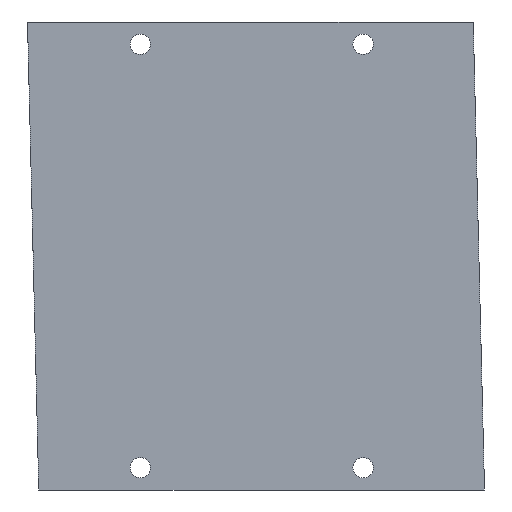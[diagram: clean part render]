
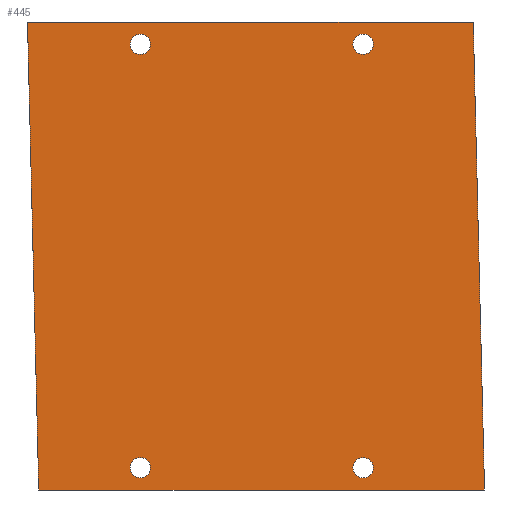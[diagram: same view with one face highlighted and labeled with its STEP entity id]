
A CAD part, front view. The second image highlights one B-rep face of the part: STEP entity #445.
In plain terms, the highlighted planar face has unit normal (0, -1, 0).
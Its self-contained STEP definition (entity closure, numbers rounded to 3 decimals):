
#96 = VERTEX_POINT ( 'NONE', #1097 ) ;
#106 = VERTEX_POINT ( 'NONE', #1089 ) ;
#150 = EDGE_CURVE ( 'NONE', #106, #96, #1313, .T. ) ;
#268 = EDGE_CURVE ( 'NONE', #346, #352, #1745, .T. ) ;
#270 = VERTEX_POINT ( 'NONE', #1726 ) ;
#275 = EDGE_CURVE ( 'NONE', #417, #418, #1773, .T. ) ;
#284 = VERTEX_POINT ( 'NONE', #1764 ) ;
#296 = EDGE_LOOP ( 'NONE', ( #432, #446 ) ) ;
#297 = ORIENTED_EDGE ( 'NONE', *, *, #449, .T. ) ;
#298 = ORIENTED_EDGE ( 'NONE', *, *, #345, .T. ) ;
#299 = ORIENTED_EDGE ( 'NONE', *, *, #305, .T. ) ;
#300 = ORIENTED_EDGE ( 'NONE', *, *, #334, .T. ) ;
#305 = EDGE_CURVE ( 'NONE', #284, #270, #1815, .T. ) ;
#320 = EDGE_CURVE ( 'NONE', #332, #374, #1859, .T. ) ;
#321 = EDGE_LOOP ( 'NONE', ( #299, #298 ) ) ;
#328 = ORIENTED_EDGE ( 'NONE', *, *, #268, .T. ) ;
#330 = EDGE_CURVE ( 'NONE', #409, #332, #1858, .T. ) ;
#332 = VERTEX_POINT ( 'NONE', #1853 ) ;
#334 = EDGE_CURVE ( 'NONE', #352, #346, #1901, .T. ) ;
#345 = EDGE_CURVE ( 'NONE', #270, #284, #1886, .T. ) ;
#346 = VERTEX_POINT ( 'NONE', #1896 ) ;
#352 = VERTEX_POINT ( 'NONE', #1931 ) ;
#374 = VERTEX_POINT ( 'NONE', #1961 ) ;
#382 = VERTEX_POINT ( 'NONE', #1997 ) ;
#399 = EDGE_CURVE ( 'NONE', #409, #382, #2031, .T. ) ;
#404 = EDGE_CURVE ( 'NONE', #382, #374, #2027, .T. ) ;
#409 = VERTEX_POINT ( 'NONE', #2020 ) ;
#417 = VERTEX_POINT ( 'NONE', #2016 ) ;
#418 = VERTEX_POINT ( 'NONE', #2058 ) ;
#429 = ORIENTED_EDGE ( 'NONE', *, *, #320, .F. ) ;
#431 = EDGE_CURVE ( 'NONE', #96, #106, #2034, .T. ) ;
#432 = ORIENTED_EDGE ( 'NONE', *, *, #431, .T. ) ;
#433 = ORIENTED_EDGE ( 'NONE', *, *, #399, .T. ) ;
#434 = ORIENTED_EDGE ( 'NONE', *, *, #330, .F. ) ;
#436 = ORIENTED_EDGE ( 'NONE', *, *, #404, .T. ) ;
#437 = EDGE_LOOP ( 'NONE', ( #297, #441 ) ) ;
#441 = ORIENTED_EDGE ( 'NONE', *, *, #275, .T. ) ;
#442 = EDGE_LOOP ( 'NONE', ( #436, #429, #434, #433 ) ) ;
#445 = ADVANCED_FACE ( 'NONE', ( #2089, #2092, #2084, #2081, #2037 ), #2085, .F. ) ;
#446 = ORIENTED_EDGE ( 'NONE', *, *, #150, .T. ) ;
#449 = EDGE_CURVE ( 'NONE', #418, #417, #2129, .T. ) ;
#450 = EDGE_LOOP ( 'NONE', ( #300, #328 ) ) ;
#1089 = CARTESIAN_POINT ( 'NONE',  ( 666.479, 0., -131.039 ) ) ;
#1097 = CARTESIAN_POINT ( 'NONE',  ( 666.479, 0., -125.539 ) ) ;
#1313 = CIRCLE ( 'NONE', #1383, 2.75 ) ;
#1316 = CARTESIAN_POINT ( 'NONE',  ( 666.479, 0., -128.289 ) ) ;
#1376 = DIRECTION ( 'NONE',  ( 0., 0., 1. ) ) ;
#1377 = DIRECTION ( 'NONE',  ( 0., 1., 0. ) ) ;
#1383 = AXIS2_PLACEMENT_3D ( 'NONE', #1316, #1377, #1376 ) ;
#1721 = DIRECTION ( 'NONE',  ( 0., 0., 1. ) ) ;
#1722 = DIRECTION ( 'NONE',  ( 0., 1., 0. ) ) ;
#1723 = CARTESIAN_POINT ( 'NONE',  ( 726.479, 0., -14.289 ) ) ;
#1726 = CARTESIAN_POINT ( 'NONE',  ( 726.479, 0., -131.039 ) ) ;
#1737 = AXIS2_PLACEMENT_3D ( 'NONE', #1723, #1722, #1721 ) ;
#1745 = CIRCLE ( 'NONE', #1737, 2.75 ) ;
#1761 = DIRECTION ( 'NONE',  ( 0., 0., 1. ) ) ;
#1762 = DIRECTION ( 'NONE',  ( 0., 1., 0. ) ) ;
#1763 = CARTESIAN_POINT ( 'NONE',  ( 666.479, 0., -14.289 ) ) ;
#1764 = CARTESIAN_POINT ( 'NONE',  ( 726.479, 0., -125.539 ) ) ;
#1766 = AXIS2_PLACEMENT_3D ( 'NONE', #1763, #1762, #1761 ) ;
#1773 = CIRCLE ( 'NONE', #1766, 2.75 ) ;
#1813 = DIRECTION ( 'NONE',  ( 0., 0., 1. ) ) ;
#1814 = DIRECTION ( 'NONE',  ( 0., 1., 0. ) ) ;
#1815 = CIRCLE ( 'NONE', #1816, 2.75 ) ;
#1816 = AXIS2_PLACEMENT_3D ( 'NONE', #1819, #1814, #1813 ) ;
#1819 = CARTESIAN_POINT ( 'NONE',  ( 726.479, 0., -128.289 ) ) ;
#1845 = DIRECTION ( 'NONE',  ( -0.024, 0., 1. ) ) ;
#1846 = VECTOR ( 'NONE', #1845, 1000. ) ;
#1847 = CARTESIAN_POINT ( 'NONE',  ( 637.567, 0., -68.761 ) ) ;
#1853 = CARTESIAN_POINT ( 'NONE',  ( 636.109, 0., -8.289 ) ) ;
#1855 = DIRECTION ( 'NONE',  ( 1., 0., 0. ) ) ;
#1856 = VECTOR ( 'NONE', #1855, 1000. ) ;
#1857 = CARTESIAN_POINT ( 'NONE',  ( 532.725, 0., -8.289 ) ) ;
#1858 = LINE ( 'NONE', #1847, #1846 ) ;
#1859 = LINE ( 'NONE', #1857, #1856 ) ;
#1880 = DIRECTION ( 'NONE',  ( 0., 0., 1. ) ) ;
#1881 = DIRECTION ( 'NONE',  ( 0., 1., 0. ) ) ;
#1882 = CARTESIAN_POINT ( 'NONE',  ( 726.479, 0., -128.289 ) ) ;
#1883 = AXIS2_PLACEMENT_3D ( 'NONE', #1882, #1881, #1880 ) ;
#1886 = CIRCLE ( 'NONE', #1883, 2.75 ) ;
#1892 = DIRECTION ( 'NONE',  ( 0., 0., 1. ) ) ;
#1893 = DIRECTION ( 'NONE',  ( 0., 1., 0. ) ) ;
#1894 = CARTESIAN_POINT ( 'NONE',  ( 726.479, 0., -14.289 ) ) ;
#1895 = AXIS2_PLACEMENT_3D ( 'NONE', #1894, #1893, #1892 ) ;
#1896 = CARTESIAN_POINT ( 'NONE',  ( 726.479, 0., -17.039 ) ) ;
#1901 = CIRCLE ( 'NONE', #1895, 2.75 ) ;
#1931 = CARTESIAN_POINT ( 'NONE',  ( 726.479, 0., -11.539 ) ) ;
#1961 = CARTESIAN_POINT ( 'NONE',  ( 756.109, 0., -8.289 ) ) ;
#1969 = VECTOR ( 'NONE', #2015, 1000. ) ;
#1997 = CARTESIAN_POINT ( 'NONE',  ( 759.147, 0., -134.289 ) ) ;
#2015 = DIRECTION ( 'NONE',  ( -0.024, 0., 1. ) ) ;
#2016 = CARTESIAN_POINT ( 'NONE',  ( 666.479, 0., -17.039 ) ) ;
#2020 = CARTESIAN_POINT ( 'NONE',  ( 639.147, 0., -134.289 ) ) ;
#2022 = DIRECTION ( 'NONE',  ( 1., 0., 0. ) ) ;
#2023 = VECTOR ( 'NONE', #2022, 1000. ) ;
#2024 = CARTESIAN_POINT ( 'NONE',  ( 532.725, 0., -134.289 ) ) ;
#2026 = CARTESIAN_POINT ( 'NONE',  ( 757.497, 0., -65.87 ) ) ;
#2027 = LINE ( 'NONE', #2026, #1969 ) ;
#2031 = LINE ( 'NONE', #2024, #2023 ) ;
#2034 = CIRCLE ( 'NONE', #2088, 2.75 ) ;
#2037 = FACE_OUTER_BOUND ( 'NONE', #442, .T. ) ;
#2046 = CARTESIAN_POINT ( 'NONE',  ( 666.479, 0., -128.289 ) ) ;
#2058 = CARTESIAN_POINT ( 'NONE',  ( 666.479, 0., -11.539 ) ) ;
#2067 = DIRECTION ( 'NONE',  ( 0., 0., 1. ) ) ;
#2068 = DIRECTION ( 'NONE',  ( 0., 1., 0. ) ) ;
#2069 = CARTESIAN_POINT ( 'NONE',  ( 532.725, 0., -71.289 ) ) ;
#2072 = CARTESIAN_POINT ( 'NONE',  ( 666.479, 0., -14.289 ) ) ;
#2081 = FACE_BOUND ( 'NONE', #296, .T. ) ;
#2082 = AXIS2_PLACEMENT_3D ( 'NONE', #2069, #2068, #2067 ) ;
#2084 = FACE_BOUND ( 'NONE', #437, .T. ) ;
#2085 = PLANE ( 'NONE',  #2082 ) ;
#2086 = DIRECTION ( 'NONE',  ( 0., 0., 1. ) ) ;
#2087 = DIRECTION ( 'NONE',  ( 0., 1., 0. ) ) ;
#2088 = AXIS2_PLACEMENT_3D ( 'NONE', #2046, #2087, #2086 ) ;
#2089 = FACE_BOUND ( 'NONE', #321, .T. ) ;
#2092 = FACE_BOUND ( 'NONE', #450, .T. ) ;
#2126 = DIRECTION ( 'NONE',  ( 0., 0., 1. ) ) ;
#2127 = DIRECTION ( 'NONE',  ( 0., 1., 0. ) ) ;
#2128 = AXIS2_PLACEMENT_3D ( 'NONE', #2072, #2127, #2126 ) ;
#2129 = CIRCLE ( 'NONE', #2128, 2.75 ) ;
